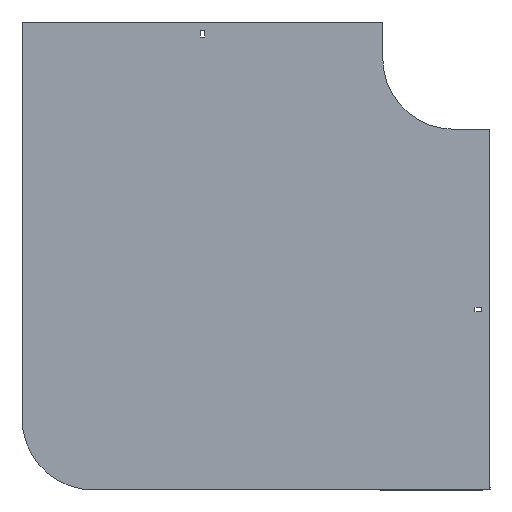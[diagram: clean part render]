
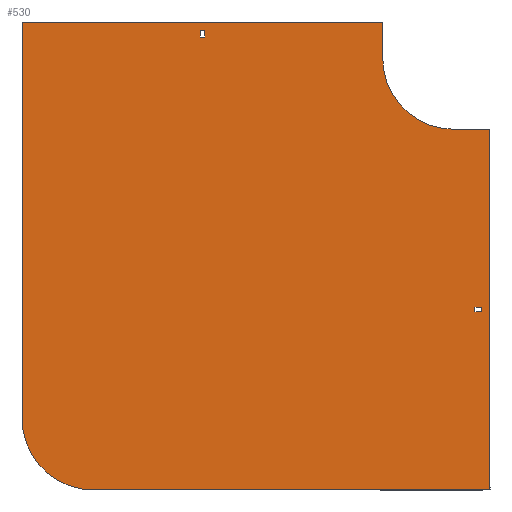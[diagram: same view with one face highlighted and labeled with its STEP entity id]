
A CAD part, front view. The second image highlights one B-rep face of the part: STEP entity #530.
In plain terms, the highlighted planar face has unit normal (0, -1, 0).
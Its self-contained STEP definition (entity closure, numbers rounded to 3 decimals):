
#27 = LINE ( 'NONE', #1529, #424 ) ;
#29 = DIRECTION ( 'NONE',  ( 0., -1., 0. ) ) ;
#31 = CARTESIAN_POINT ( 'NONE',  ( 29., 0., -355.25 ) ) ;
#36 = CARTESIAN_POINT ( 'NONE',  ( 29., 0., -355.25 ) ) ;
#42 = EDGE_CURVE ( 'NONE', #724, #1364, #1099, .T. ) ;
#64 = CARTESIAN_POINT ( 'NONE',  ( -100., 0., 50. ) ) ;
#69 = VERTEX_POINT ( 'NONE', #157 ) ;
#88 = LINE ( 'NONE', #1691, #1530 ) ;
#118 = DIRECTION ( 'NONE',  ( -1., 0., 0. ) ) ;
#124 = LINE ( 'NONE', #740, #584 ) ;
#157 = CARTESIAN_POINT ( 'NONE',  ( 0., 0., -100. ) ) ;
#161 = ORIENTED_EDGE ( 'NONE', *, *, #1214, .F. ) ;
#170 = CARTESIAN_POINT ( 'NONE',  ( 50., 0., -604. ) ) ;
#198 = DIRECTION ( 'NONE',  ( 0., 0., 1. ) ) ;
#208 = CARTESIAN_POINT ( 'NONE',  ( 0., 0., 0. ) ) ;
#226 = VERTEX_POINT ( 'NONE', #1223 ) ;
#236 = VERTEX_POINT ( 'NONE', #1136 ) ;
#246 = VERTEX_POINT ( 'NONE', #64 ) ;
#251 = LINE ( 'NONE', #383, #545 ) ;
#265 = ORIENTED_EDGE ( 'NONE', *, *, #407, .T. ) ;
#269 = DIRECTION ( 'NONE',  ( 0., 0., -1. ) ) ;
#277 = VERTEX_POINT ( 'NONE', #1844 ) ;
#284 = EDGE_CURVE ( 'NONE', #69, #1852, #1281, .T. ) ;
#325 = VECTOR ( 'NONE', #682, 1000. ) ;
#329 = AXIS2_PLACEMENT_3D ( 'NONE', #1587, #1305, #570 ) ;
#379 = CARTESIAN_POINT ( 'NONE',  ( -348.75, 0., 29. ) ) ;
#383 = CARTESIAN_POINT ( 'NONE',  ( -355.25, 0., 29. ) ) ;
#385 = DIRECTION ( 'NONE',  ( 0., 0., -1. ) ) ;
#388 = ORIENTED_EDGE ( 'NONE', *, *, #466, .F. ) ;
#405 = ORIENTED_EDGE ( 'NONE', *, *, #763, .F. ) ;
#407 = EDGE_CURVE ( 'NONE', #1160, #1185, #1444, .T. ) ;
#424 = VECTOR ( 'NONE', #198, 1000. ) ;
#450 = CARTESIAN_POINT ( 'NONE',  ( -355.25, 0., 29. ) ) ;
#451 = EDGE_CURVE ( 'NONE', #1863, #827, #1597, .T. ) ;
#466 = EDGE_CURVE ( 'NONE', #236, #277, #683, .T. ) ;
#467 = CARTESIAN_POINT ( 'NONE',  ( 29., 0., -348.75 ) ) ;
#469 = CARTESIAN_POINT ( 'NONE',  ( 29., 0., -348.75 ) ) ;
#473 = CARTESIAN_POINT ( 'NONE',  ( 50., 0., -100. ) ) ;
#474 = EDGE_LOOP ( 'NONE', ( #1342, #722, #614, #265 ) ) ;
#489 = VERTEX_POINT ( 'NONE', #469 ) ;
#524 = DIRECTION ( 'NONE',  ( 1., 0., 0. ) ) ;
#530 = ADVANCED_FACE ( 'NONE', ( #622, #776, #1362 ), #1389, .T. ) ;
#533 = LINE ( 'NONE', #36, #325 ) ;
#535 = DIRECTION ( 'NONE',  ( 0., 0., 1. ) ) ;
#545 = VECTOR ( 'NONE', #535, 1000. ) ;
#570 = DIRECTION ( 'NONE',  ( 0., 0., 1. ) ) ;
#584 = VECTOR ( 'NONE', #946, 1000. ) ;
#614 = ORIENTED_EDGE ( 'NONE', *, *, #1534, .T. ) ;
#622 = FACE_BOUND ( 'NONE', #474, .T. ) ;
#637 = ORIENTED_EDGE ( 'NONE', *, *, #789, .F. ) ;
#640 = VERTEX_POINT ( 'NONE', #1327 ) ;
#645 = DIRECTION ( 'NONE',  ( 0., 0., -1. ) ) ;
#682 = DIRECTION ( 'NONE',  ( 0., 0., -1. ) ) ;
#683 = CIRCLE ( 'NONE', #329, 100. ) ;
#706 = ORIENTED_EDGE ( 'NONE', *, *, #1598, .F. ) ;
#722 = ORIENTED_EDGE ( 'NONE', *, *, #451, .T. ) ;
#724 = VERTEX_POINT ( 'NONE', #1183 ) ;
#729 = ORIENTED_EDGE ( 'NONE', *, *, #1391, .F. ) ;
#737 = ORIENTED_EDGE ( 'NONE', *, *, #42, .F. ) ;
#740 = CARTESIAN_POINT ( 'NONE',  ( 38., 0., -355.25 ) ) ;
#746 = CARTESIAN_POINT ( 'NONE',  ( -355.25, 0., 38. ) ) ;
#763 = EDGE_CURVE ( 'NONE', #1852, #640, #1788, .T. ) ;
#776 = FACE_OUTER_BOUND ( 'NONE', #1503, .T. ) ;
#781 = DIRECTION ( 'NONE',  ( -1., 0., 0. ) ) ;
#789 = EDGE_CURVE ( 'NONE', #1040, #69, #1261, .T. ) ;
#827 = VERTEX_POINT ( 'NONE', #1515 ) ;
#834 = VECTOR ( 'NONE', #118, 1000. ) ;
#885 = EDGE_CURVE ( 'NONE', #1185, #1863, #251, .T. ) ;
#897 = DIRECTION ( 'NONE',  ( -1., 0., 0. ) ) ;
#928 = CARTESIAN_POINT ( 'NONE',  ( 0., 0., 0. ) ) ;
#946 = DIRECTION ( 'NONE',  ( 0., 0., 1. ) ) ;
#979 = DIRECTION ( 'NONE',  ( 0., 0., -1. ) ) ;
#986 = CARTESIAN_POINT ( 'NONE',  ( -355.25, 0., 29. ) ) ;
#1017 = VECTOR ( 'NONE', #269, 1000. ) ;
#1022 = CARTESIAN_POINT ( 'NONE',  ( 38., 0., -348.75 ) ) ;
#1040 = VERTEX_POINT ( 'NONE', #1228 ) ;
#1065 = CARTESIAN_POINT ( 'NONE',  ( 50., 0., -100. ) ) ;
#1082 = CARTESIAN_POINT ( 'NONE',  ( -604., 0., 50. ) ) ;
#1099 = LINE ( 'NONE', #31, #1790 ) ;
#1106 = EDGE_LOOP ( 'NONE', ( #706, #737, #729, #161 ) ) ;
#1136 = CARTESIAN_POINT ( 'NONE',  ( -504., 0., -604. ) ) ;
#1152 = LINE ( 'NONE', #1706, #1178 ) ;
#1160 = VERTEX_POINT ( 'NONE', #379 ) ;
#1178 = VECTOR ( 'NONE', #385, 1000. ) ;
#1183 = CARTESIAN_POINT ( 'NONE',  ( 29., 0., -355.25 ) ) ;
#1185 = VERTEX_POINT ( 'NONE', #986 ) ;
#1214 = EDGE_CURVE ( 'NONE', #1475, #489, #1387, .T. ) ;
#1223 = CARTESIAN_POINT ( 'NONE',  ( -604., 0., 50. ) ) ;
#1227 = DIRECTION ( 'NONE',  ( 0., -1., 0. ) ) ;
#1228 = CARTESIAN_POINT ( 'NONE',  ( -100., 0., 0. ) ) ;
#1232 = VECTOR ( 'NONE', #781, 1000. ) ;
#1261 = CIRCLE ( 'NONE', #1709, 100. ) ;
#1272 = CARTESIAN_POINT ( 'NONE',  ( 38., 0., -355.25 ) ) ;
#1281 = LINE ( 'NONE', #1853, #1665 ) ;
#1297 = VECTOR ( 'NONE', #1933, 1000. ) ;
#1305 = DIRECTION ( 'NONE',  ( 0., 1., 0. ) ) ;
#1327 = CARTESIAN_POINT ( 'NONE',  ( 50., 0., -604. ) ) ;
#1336 = LINE ( 'NONE', #1082, #1297 ) ;
#1342 = ORIENTED_EDGE ( 'NONE', *, *, #885, .T. ) ;
#1344 = ORIENTED_EDGE ( 'NONE', *, *, #1720, .F. ) ;
#1362 = FACE_BOUND ( 'NONE', #1106, .T. ) ;
#1364 = VERTEX_POINT ( 'NONE', #1272 ) ;
#1372 = ORIENTED_EDGE ( 'NONE', *, *, #1794, .F. ) ;
#1378 = LINE ( 'NONE', #170, #834 ) ;
#1387 = LINE ( 'NONE', #467, #1232 ) ;
#1389 = PLANE ( 'NONE',  #1903 ) ;
#1391 = EDGE_CURVE ( 'NONE', #489, #724, #533, .T. ) ;
#1417 = EDGE_CURVE ( 'NONE', #277, #226, #27, .T. ) ;
#1444 = LINE ( 'NONE', #450, #1478 ) ;
#1475 = VERTEX_POINT ( 'NONE', #1022 ) ;
#1477 = ORIENTED_EDGE ( 'NONE', *, *, #284, .F. ) ;
#1478 = VECTOR ( 'NONE', #897, 1000. ) ;
#1503 = EDGE_LOOP ( 'NONE', ( #1372, #1583, #388, #1908, #405, #1477, #637, #1344 ) ) ;
#1515 = CARTESIAN_POINT ( 'NONE',  ( -348.75, 0., 38. ) ) ;
#1529 = CARTESIAN_POINT ( 'NONE',  ( -604., 0., -504. ) ) ;
#1530 = VECTOR ( 'NONE', #979, 1000. ) ;
#1534 = EDGE_CURVE ( 'NONE', #827, #1160, #1152, .T. ) ;
#1583 = ORIENTED_EDGE ( 'NONE', *, *, #1417, .F. ) ;
#1587 = CARTESIAN_POINT ( 'NONE',  ( -504., 0., -504. ) ) ;
#1597 = LINE ( 'NONE', #746, #1950 ) ;
#1598 = EDGE_CURVE ( 'NONE', #1364, #1475, #124, .T. ) ;
#1659 = DIRECTION ( 'NONE',  ( 1., 0., 0. ) ) ;
#1665 = VECTOR ( 'NONE', #524, 1000. ) ;
#1681 = DIRECTION ( 'NONE',  ( 0., 0., -1. ) ) ;
#1691 = CARTESIAN_POINT ( 'NONE',  ( -100., 0., 50. ) ) ;
#1706 = CARTESIAN_POINT ( 'NONE',  ( -348.75, 0., 29. ) ) ;
#1709 = AXIS2_PLACEMENT_3D ( 'NONE', #208, #29, #1681 ) ;
#1720 = EDGE_CURVE ( 'NONE', #246, #1040, #88, .T. ) ;
#1746 = EDGE_CURVE ( 'NONE', #640, #236, #1378, .T. ) ;
#1788 = LINE ( 'NONE', #1065, #1017 ) ;
#1790 = VECTOR ( 'NONE', #1659, 1000. ) ;
#1794 = EDGE_CURVE ( 'NONE', #226, #246, #1336, .T. ) ;
#1795 = CARTESIAN_POINT ( 'NONE',  ( -355.25, 0., 38. ) ) ;
#1844 = CARTESIAN_POINT ( 'NONE',  ( -604., 0., -504. ) ) ;
#1852 = VERTEX_POINT ( 'NONE', #473 ) ;
#1853 = CARTESIAN_POINT ( 'NONE',  ( 0., 0., -100. ) ) ;
#1863 = VERTEX_POINT ( 'NONE', #1795 ) ;
#1903 = AXIS2_PLACEMENT_3D ( 'NONE', #928, #1227, #645 ) ;
#1908 = ORIENTED_EDGE ( 'NONE', *, *, #1746, .F. ) ;
#1926 = DIRECTION ( 'NONE',  ( 1., 0., 0. ) ) ;
#1933 = DIRECTION ( 'NONE',  ( 1., 0., 0. ) ) ;
#1950 = VECTOR ( 'NONE', #1926, 1000. ) ;
